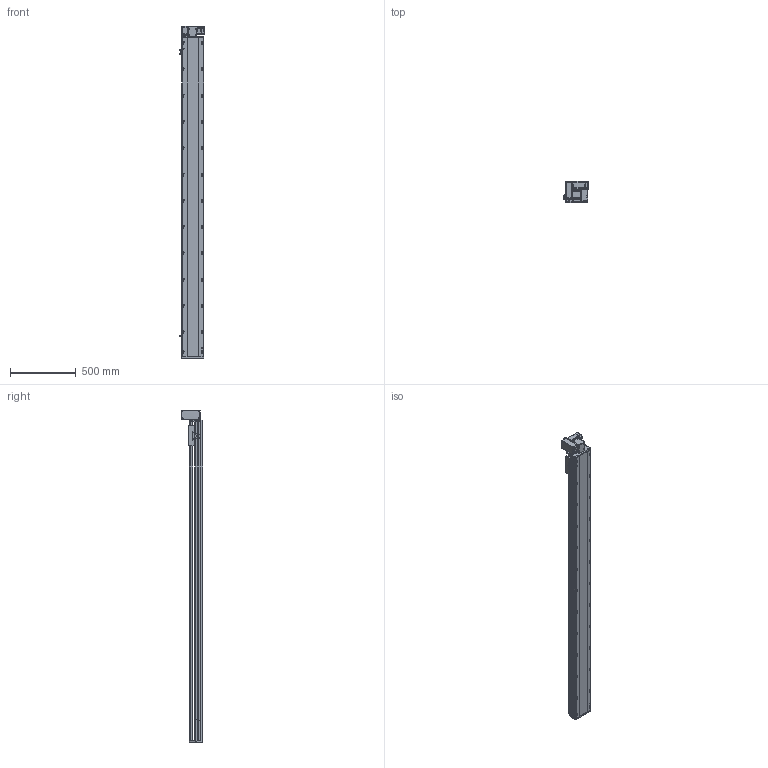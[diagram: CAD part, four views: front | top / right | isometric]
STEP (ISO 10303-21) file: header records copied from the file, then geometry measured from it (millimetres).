
FILE_DESCRIPTION (( 'STEP AP214' ), '1' );
FILE_NAME ('RTB17S-XX-2150-LW-M40-C4.STEP', '2025-12-11T07:14:09', ( '' ), ( '' ), 'SwSTEP 2.0', 'SolidWorks 2018', '' );
FILE_SCHEMA (( 'AUTOMOTIVE_DESIGN' ));
Length unit declared in the file: millimetre
Products named in the file (14): RTB17S-L-004佪裝蹟譫蟀諉釱^RTB17S-XX-XX-LW-M40-C4; RTB14-L-008-M20--萇儂啣^RTB17S-LW-々湍釱蚾饜-400W_RTB17S-XX-XX-LW-M40-C4; RTH13-BL-012覜茼え俋离^RTB17S-XX-XX-LW-M40-C4; RTB14-L-017P^RTB17S-LW-々湍釱蚾饜-400W_RTB17S-XX-XX-LW-M40-C4; 400W侜督萇儂^RTB17S-XX-XX-LW-M40-C4; RTB17S-L-007奻裔^RTB17S-XX-XX-LW-M40-C4; RTB14-L-018P^RTB17S-LW-々湍釱蚾饜-400W_RTB17S-XX-XX-LW-M40-C4; RTB14-L-005P--轴承塑胶压盖^RTB17S-LW-皮带座装配-400W_RTB17S-XX-XX-LW-M40-C4; RTB17S-L-001耜醱啣^RTB17S-XX-XX-LW-M40-C4; OMRON EE-SX672 传感器^RTB17S-XX-XX-LW-M40-C4; RTB17-R-011菁釱^RTB17S-XX-XX-LW-M40-C4; RTB17S-L-014-T20--々湍釱^RTB17S-LW-々湍釱蚾饜-400W_RTB17S-XX-XX-LW-M40-C4; RTB17S-LW-々湍釱蚾饜-400W^RTB17S-XX-XX-LW-M40-C4; RTB17S-XX-2150-LW-M40-C4
Assembly tree (16 placements, depth 3):
  RTB17S-XX-2150-LW-M40-C4
    RTB17-R-011菁釱^RTB17S-XX-XX-LW-M40-C4
    RTB17S-L-007奻裔^RTB17S-XX-XX-LW-M40-C4
    OMRON EE-SX672 传感器^RTB17S-XX-XX-LW-M40-C4  x3
    RTB17S-L-001耜醱啣^RTB17S-XX-XX-LW-M40-C4
    400W侜督萇儂^RTB17S-XX-XX-LW-M40-C4
    RTB17S-L-004佪裝蹟譫蟀諉釱^RTB17S-XX-XX-LW-M40-C4
    RTH13-BL-012覜茼え俋离^RTB17S-XX-XX-LW-M40-C4
    RTB17S-LW-々湍釱蚾饜-400W^RTB17S-XX-XX-LW-M40-C4
      RTB17S-L-014-T20--々湍釱^RTB17S-LW-々湍釱蚾饜-400W_RTB17S-XX-XX-LW-M40-C4
      RTB14-L-005P--轴承塑胶压盖^RTB17S-LW-皮带座装配-400W_RTB17S-XX-XX-LW-M40-C4
      RTB14-L-008-M20--萇儂啣^RTB17S-LW-々湍釱蚾饜-400W_RTB17S-XX-XX-LW-M40-C4
      RTB14-L-017P^RTB17S-LW-々湍釱蚾饜-400W_RTB17S-XX-XX-LW-M40-C4  x2
      RTB14-L-018P^RTB17S-LW-々湍釱蚾饜-400W_RTB17S-XX-XX-LW-M40-C4
Bounding box: 186 x 160.5 x 2522.5 mm (x, y, z)
Volume: 21752506.4 mm3; surface area: 2520749.9 mm2
Topology: 15 solids, 15 shells, 2301 faces, 6411 edges, 4185 vertices
Faces by surface type: plane 1080, cylinder 773, bspline 301, cone 139, torus 8
Entity records: 67241 total; most frequent: CARTESIAN_POINT 19016, ORIENTED_EDGE 9666, DIRECTION 8936, EDGE_CURVE 4833, VERTEX_POINT 3173, AXIS2_PLACEMENT_3D 3103, VECTOR 2730, LINE 2730
